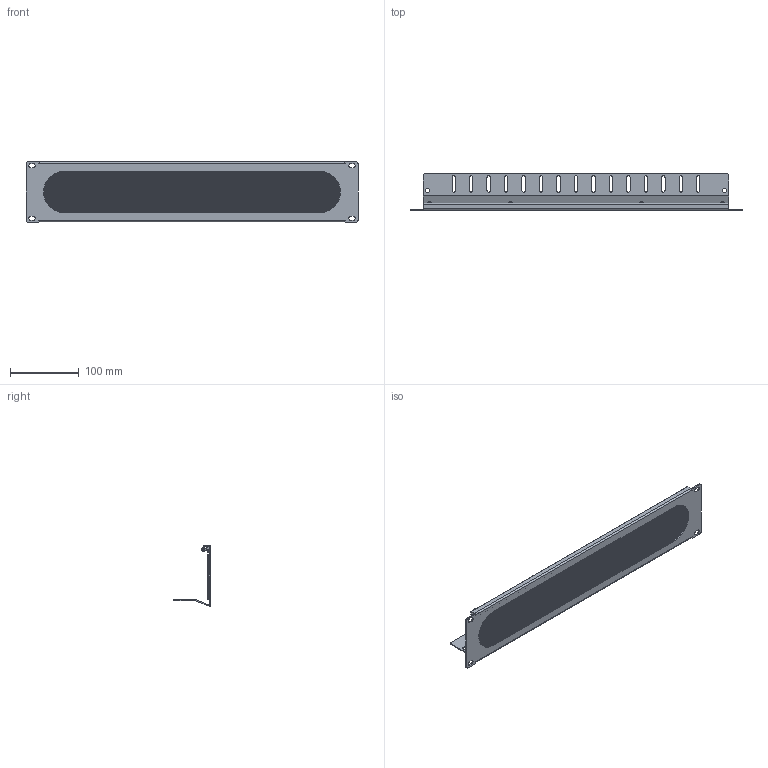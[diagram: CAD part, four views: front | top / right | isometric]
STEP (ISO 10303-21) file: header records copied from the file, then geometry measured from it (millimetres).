
FILE_DESCRIPTION(/* description */ ('Unknown'),/* implementation_level */ '2;1');
FILE_NAME(/* name */ 'BRP2UBK',/* time_stamp */ '2022-08-31T12:38:10-04:00',/* author */ ('Unknown'),/* organization */ ('Unknown'),/* preprocessor_version */ 'ST-DEVELOPER v18.1',/* originating_system */ 'Solid Edge',/* authorisation */ 'Unknown');
FILE_SCHEMA (('MODEL_BASED_INTEGRATED_MANUFACTURING_SCHEMA','AUTOMOTIVE_DESIGN {1 0 10303 214 3 1 1}'));
Length unit declared in the file: millimetre
Products named in the file (4): BRP2U; SCS19482; COM57117-2; GSK11221-17.50
Assembly tree (6 placements, depth 2):
  BRP2U
    SCS19482  x4
    COM57117-2
    GSK11221-17.50
Bounding box: 482.6 x 53.22 x 88.09 mm (x, y, z)
Volume: 81028.7 mm3; surface area: 196530 mm2
Topology: 6 solids, 6 shells, 2546 faces, 4092 edges, 2722 vertices
Faces by surface type: plane 1296, cylinder 1234, torus 8, cone 4, bspline 4
Full cylindrical faces by diameter (mm): 0.356 x1164, 2.769 x4, 3.505 x4, 6.35 x2, 6.477 x4
Entity records: 51855 total; most frequent: DIRECTION 10188, CARTESIAN_POINT 7949, ORIENTED_EDGE 5516, AXIS2_PLACEMENT_3D 4950, FACE_BOUND 4879, EDGE_LOOP 4878, EDGE_CURVE 2758, VERTEX_POINT 2619
